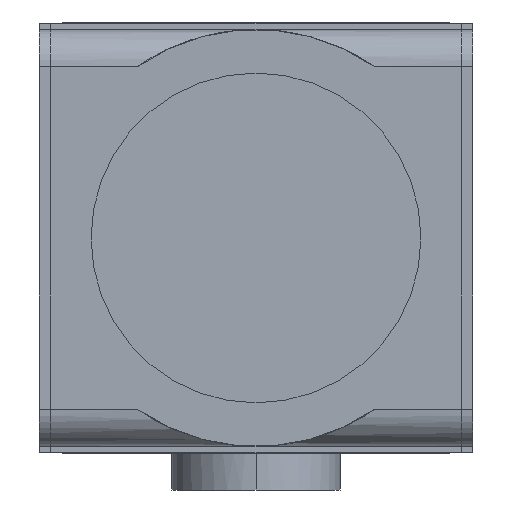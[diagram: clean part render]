
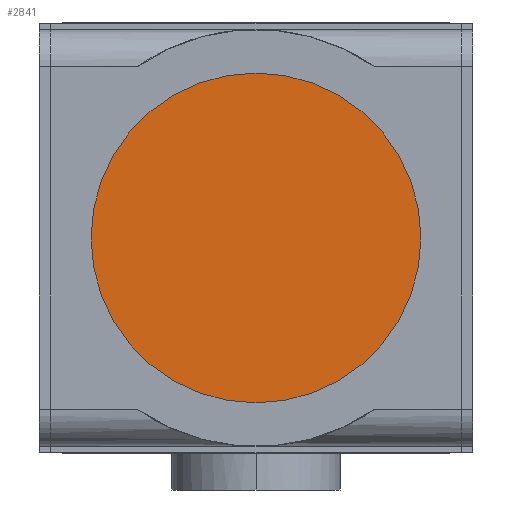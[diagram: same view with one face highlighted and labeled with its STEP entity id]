
A CAD part, front view. The second image highlights one B-rep face of the part: STEP entity #2841.
In plain terms, the highlighted planar face has unit normal (0, -1, 0).
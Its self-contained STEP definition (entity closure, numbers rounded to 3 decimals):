
#976=CARTESIAN_POINT('',(0.,-35.5,0.));
#977=DIRECTION('',(0.,-1.,0.));
#978=DIRECTION('',(1.,0.,0.));
#979=AXIS2_PLACEMENT_3D('',#976,#977,#978);
#981=CARTESIAN_POINT('',(0.,-35.5,0.));
#982=DIRECTION('',(0.,-1.,0.));
#983=DIRECTION('',(-1.,0.,0.));
#984=AXIS2_PLACEMENT_3D('',#981,#982,#983);
#1490=CARTESIAN_POINT('',(26.5,-35.5,0.));
#1491=CARTESIAN_POINT('',(-26.5,-35.5,0.));
#1492=VERTEX_POINT('',#1490);
#1493=VERTEX_POINT('',#1491);
#2832=CARTESIAN_POINT('',(-33.,-35.5,0.));
#2833=DIRECTION('',(0.,-1.,0.));
#2834=DIRECTION('',(1.,0.,0.));
#2835=AXIS2_PLACEMENT_3D('',#2832,#2833,#2834);
#2836=PLANE('',#2835);
#2837=ORIENTED_EDGE('',*,*,#2812,.F.);
#2838=ORIENTED_EDGE('',*,*,#2826,.F.);
#2839=EDGE_LOOP('',(#2837,#2838));
#2840=FACE_OUTER_BOUND('',#2839,.F.);
#2841=ADVANCED_FACE('',(#2840),#2836,.T.);
#980=CIRCLE('',#979,26.5);
#985=CIRCLE('',#984,26.5);
#2812=EDGE_CURVE('',#1492,#1493,#980,.T.);
#2826=EDGE_CURVE('',#1493,#1492,#985,.T.);
